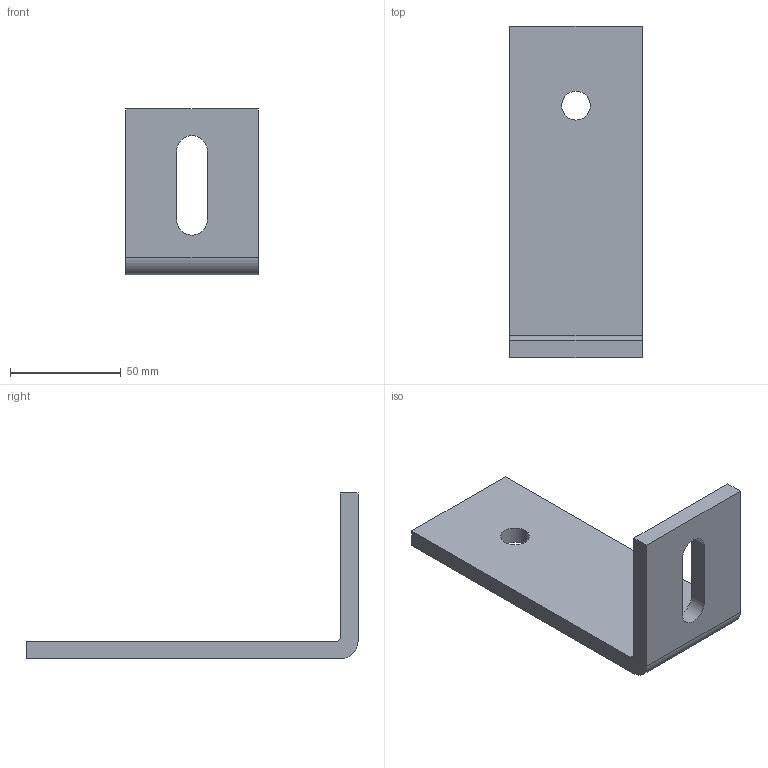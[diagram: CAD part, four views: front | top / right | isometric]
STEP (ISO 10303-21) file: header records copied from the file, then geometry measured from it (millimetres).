
FILE_DESCRIPTION (( 'STEP AP203' ), '1' );
FILE_NAME ('112A.STEP', '2020-10-19T14:08:00', ( '' ), ( '' ), 'SwSTEP 2.0', 'SolidWorks 2013', '' );
FILE_SCHEMA (( 'CONFIG_CONTROL_DESIGN' ));
Length unit declared in the file: millimetre
Products named in the file (1): 112A
Bounding box: 60 x 150 x 75 mm (x, y, z)
Volume: 97622.1 mm3; surface area: 29922 mm2
Topology: 1 solids, 1 shells, 17 faces, 45 edges, 30 vertices
Faces by surface type: plane 10, cylinder 7
Entity records: 618 total; most frequent: DIRECTION 95, CARTESIAN_POINT 93, ORIENTED_EDGE 90, EDGE_CURVE 45, AXIS2_PLACEMENT_3D 32, LINE 31, VECTOR 31, VERTEX_POINT 30
